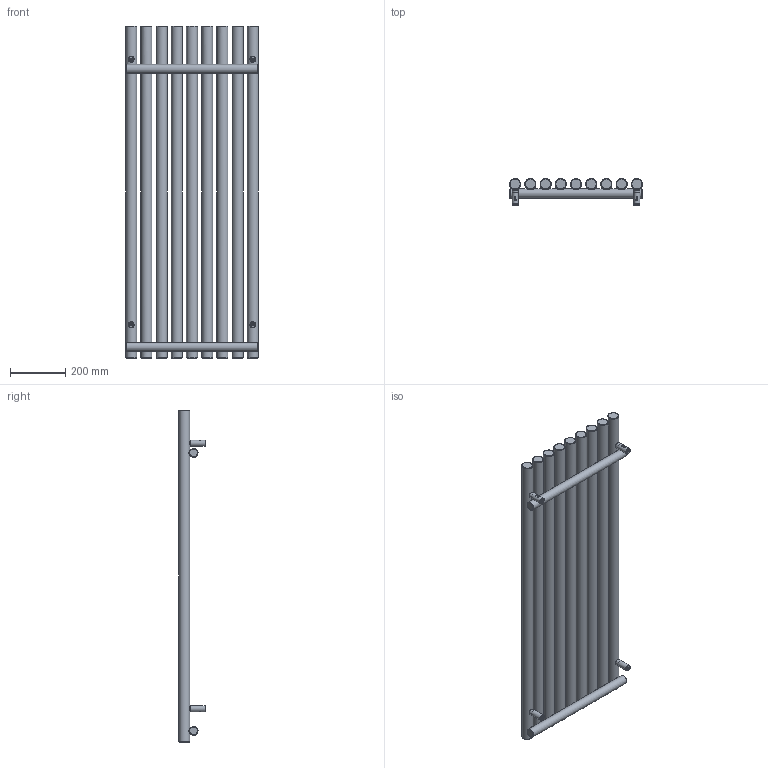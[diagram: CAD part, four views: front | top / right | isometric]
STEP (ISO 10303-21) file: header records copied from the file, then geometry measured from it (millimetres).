
FILE_DESCRIPTION(/* description */ (''),/* implementation_level */ '2;1');
FILE_NAME(/* name */ 'Z:\R\G\P\RGP116 - Grzejniki Geyser\Work\Inventor\Circolo (Rolo V, Rolo H)\ROLO-ROOM\Marketing\Bryły 3D\Zaokrąglone\WLROR120048-ES-CK-(Z).stp',/* time_stamp */ '2024-04-03T09:03:03+02:00',/* author */ ('NowAd'),/* organization */ (''),/* preprocessor_version */ 'ST-DEVELOPER v17.2',/* originating_system */ 'Autodesk Inventor 2019',/* authorisation */ '');
FILE_SCHEMA (('AUTOMOTIVE_DESIGN { 1 0 10303 214 3 1 1 }'));
Length unit declared in the file: millimetre
Products named in the file (3): WLROR120048-ES-CK-(Z); PGROR120048-ES-CK-(K); CK-V-fi40 marketing
Assembly tree (5 placements, depth 2):
  WLROR120048-ES-CK-(Z)
    PGROR120048-ES-CK-(K)
    CK-V-fi40 marketing  x4
Bounding box: 480 x 96.5 x 1200 mm (x, y, z)
Volume: 14383121.4 mm3; surface area: 1499349.2 mm2
Topology: 5 solids, 5 shells, 345 faces, 859 edges, 574 vertices
Faces by surface type: plane 140, cylinder 77, cone 60, torus 50, bspline 18
Full cylindrical faces by diameter (mm): 4.134 x4, 4.48 x4, 6.4 x4, 10 x4, 12 x4, 15.834 x4, 16 x4, 18.631 x2, 22 x4, 32 x2, 40 x9
Entity records: 8424 total; most frequent: CARTESIAN_POINT 4576, DIRECTION 800, ORIENTED_EDGE 756, EDGE_CURVE 378, AXIS2_PLACEMENT_3D 361, VERTEX_POINT 256, EDGE_LOOP 216, CIRCLE 201
